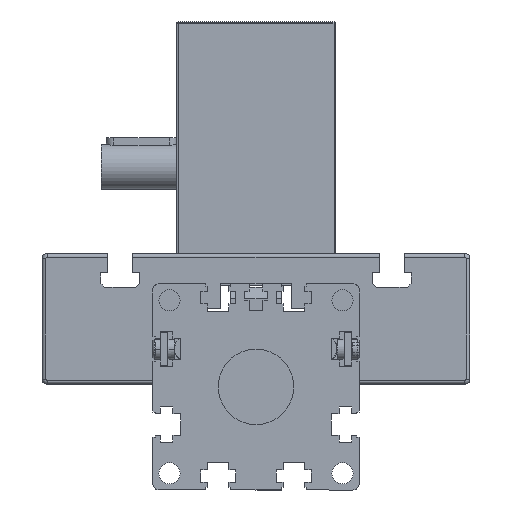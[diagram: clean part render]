
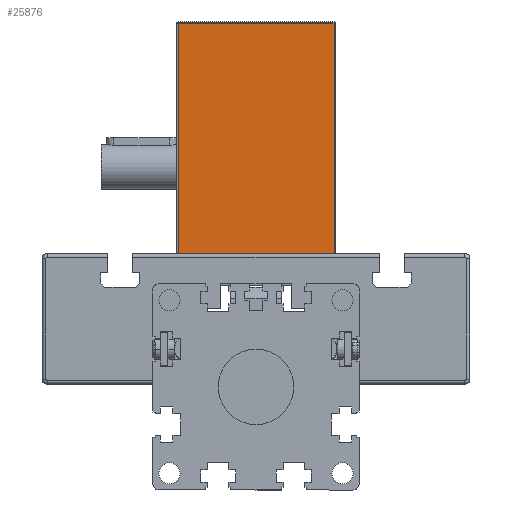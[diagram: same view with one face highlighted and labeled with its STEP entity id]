
A CAD part, front view. The second image highlights one B-rep face of the part: STEP entity #25876.
In plain terms, the highlighted planar face has unit normal (0, -1, 0) as drawn and (-1, 0, 0) by its records, which use the part's own axes.
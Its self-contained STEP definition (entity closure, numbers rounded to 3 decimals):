
#248 = DIRECTION ( 'NONE',  ( 0., 1., 0. ) ) ;
#450 = ORIENTED_EDGE ( 'NONE', *, *, #13687, .T. ) ;
#473 = VECTOR ( 'NONE', #28937, 1000. ) ;
#745 = ORIENTED_EDGE ( 'NONE', *, *, #23893, .T. ) ;
#1960 = VERTEX_POINT ( 'NONE', #10127 ) ;
#3046 = CARTESIAN_POINT ( 'NONE',  ( -75., -31.5, 0. ) ) ;
#3907 = EDGE_CURVE ( 'NONE', #15781, #1960, #5852, .T. ) ;
#4149 = EDGE_CURVE ( 'NONE', #15781, #22506, #20501, .T. ) ;
#5104 = CARTESIAN_POINT ( 'NONE',  ( -75., -31.5, 91.5 ) ) ;
#5511 = CARTESIAN_POINT ( 'NONE',  ( -75., 31., 0. ) ) ;
#5852 = LINE ( 'NONE', #3046, #24342 ) ;
#8935 = PLANE ( 'NONE',  #24437 ) ;
#9007 = EDGE_LOOP ( 'NONE', ( #450, #745, #27771, #11222 ) ) ;
#10127 = CARTESIAN_POINT ( 'NONE',  ( -75., 31., 0. ) ) ;
#11222 = ORIENTED_EDGE ( 'NONE', *, *, #4149, .T. ) ;
#12277 = VERTEX_POINT ( 'NONE', #33583 ) ;
#13687 = EDGE_CURVE ( 'NONE', #22506, #12277, #30904, .T. ) ;
#15781 = VERTEX_POINT ( 'NONE', #29452 ) ;
#20336 = DIRECTION ( 'NONE',  ( 1., 0., 0. ) ) ;
#20501 = LINE ( 'NONE', #34729, #473 ) ;
#21728 = DIRECTION ( 'NONE',  ( 0., 1., 0. ) ) ;
#22506 = VERTEX_POINT ( 'NONE', #28075 ) ;
#22874 = LINE ( 'NONE', #5511, #32659 ) ;
#23893 = EDGE_CURVE ( 'NONE', #12277, #1960, #22874, .T. ) ;
#24342 = VECTOR ( 'NONE', #248, 1000. ) ;
#24437 = AXIS2_PLACEMENT_3D ( 'NONE', #31775, #20336, #26327 ) ;
#25876 = ADVANCED_FACE ( 'NONE', ( #28605 ), #8935, .F. ) ;
#25895 = VECTOR ( 'NONE', #21728, 1000. ) ;
#26327 = DIRECTION ( 'NONE',  ( 0., 0., -1. ) ) ;
#27771 = ORIENTED_EDGE ( 'NONE', *, *, #3907, .F. ) ;
#28075 = CARTESIAN_POINT ( 'NONE',  ( -75., -31., 91.5 ) ) ;
#28329 = DIRECTION ( 'NONE',  ( 0., 0., -1. ) ) ;
#28605 = FACE_OUTER_BOUND ( 'NONE', #9007, .T. ) ;
#28937 = DIRECTION ( 'NONE',  ( 0., 0., 1. ) ) ;
#29452 = CARTESIAN_POINT ( 'NONE',  ( -75., -31., 0. ) ) ;
#30904 = LINE ( 'NONE', #5104, #25895 ) ;
#31775 = CARTESIAN_POINT ( 'NONE',  ( -75., -31.5, 0. ) ) ;
#32659 = VECTOR ( 'NONE', #28329, 1000. ) ;
#33583 = CARTESIAN_POINT ( 'NONE',  ( -75., 31., 91.5 ) ) ;
#34729 = CARTESIAN_POINT ( 'NONE',  ( -75., -31., 0. ) ) ;
